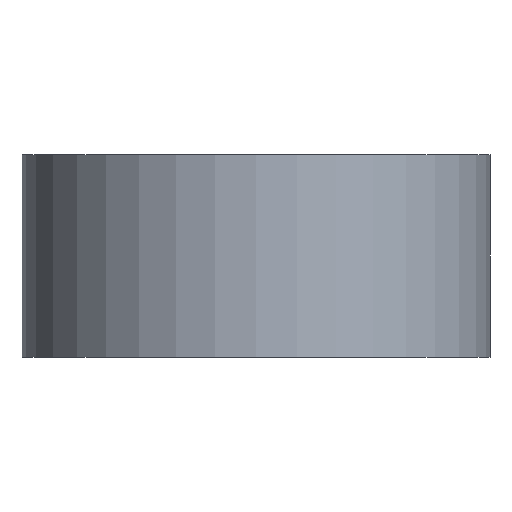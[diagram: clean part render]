
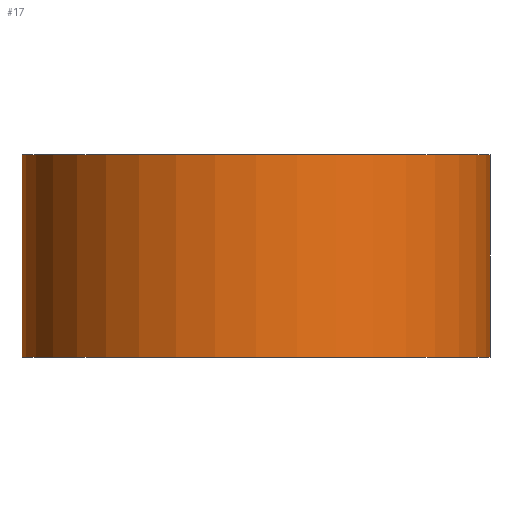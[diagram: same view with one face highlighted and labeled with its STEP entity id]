
A CAD part, front view. The second image highlights one B-rep face of the part: STEP entity #17.
In plain terms, the highlighted cylindrical face has radius 1.1 mm (diameter 2.2 mm), a full revolution.
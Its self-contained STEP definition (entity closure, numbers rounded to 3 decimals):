
#17 = ADVANCED_FACE('',(#18),#31,.T.);
#18 = FACE_BOUND('',#19,.T.);
#19 = EDGE_LOOP('',(#20,#54,#77,#104));
#20 = ORIENTED_EDGE('',*,*,#21,.F.);
#21 = EDGE_CURVE('',#22,#22,#24,.T.);
#22 = VERTEX_POINT('',#23);
#23 = CARTESIAN_POINT('',(1.1,-14.,-2.251));
#24 = SURFACE_CURVE('',#25,(#30,#42),.PCURVE_S1.);
#25 = CIRCLE('',#26,1.1);
#26 = AXIS2_PLACEMENT_3D('',#27,#28,#29);
#27 = CARTESIAN_POINT('',(0.,-14.,-2.251));
#28 = DIRECTION('',(0.,0.,1.));
#29 = DIRECTION('',(1.,0.,-0.));
#30 = PCURVE('',#31,#36);
#31 = CYLINDRICAL_SURFACE('',#32,1.1);
#32 = AXIS2_PLACEMENT_3D('',#33,#34,#35);
#33 = CARTESIAN_POINT('',(0.,-14.,-3.201));
#34 = DIRECTION('',(0.,0.,1.));
#35 = DIRECTION('',(1.,0.,-0.));
#36 = DEFINITIONAL_REPRESENTATION('',(#37),#41);
#37 = LINE('',#38,#39);
#38 = CARTESIAN_POINT('',(0.,0.95));
#39 = VECTOR('',#40,1.);
#40 = DIRECTION('',(1.,0.));
#41 = ( GEOMETRIC_REPRESENTATION_CONTEXT(2) 
PARAMETRIC_REPRESENTATION_CONTEXT() REPRESENTATION_CONTEXT('2D SPACE',''
  ) );
#42 = PCURVE('',#43,#48);
#43 = PLANE('',#44);
#44 = AXIS2_PLACEMENT_3D('',#45,#46,#47);
#45 = CARTESIAN_POINT('',(0.,-14.,-2.251));
#46 = DIRECTION('',(0.,0.,1.));
#47 = DIRECTION('',(1.,0.,-0.));
#48 = DEFINITIONAL_REPRESENTATION('',(#49),#53);
#49 = CIRCLE('',#50,1.1);
#50 = AXIS2_PLACEMENT_2D('',#51,#52);
#51 = CARTESIAN_POINT('',(0.,0.));
#52 = DIRECTION('',(1.,0.));
#53 = ( GEOMETRIC_REPRESENTATION_CONTEXT(2) 
PARAMETRIC_REPRESENTATION_CONTEXT() REPRESENTATION_CONTEXT('2D SPACE',''
  ) );
#54 = ORIENTED_EDGE('',*,*,#55,.F.);
#55 = EDGE_CURVE('',#56,#22,#58,.T.);
#56 = VERTEX_POINT('',#57);
#57 = CARTESIAN_POINT('',(1.1,-14.,-3.201));
#58 = SEAM_CURVE('',#59,(#63,#70),.PCURVE_S1.);
#59 = LINE('',#60,#61);
#60 = CARTESIAN_POINT('',(1.1,-14.,-3.201));
#61 = VECTOR('',#62,1.);
#62 = DIRECTION('',(0.,0.,1.));
#63 = PCURVE('',#31,#64);
#64 = DEFINITIONAL_REPRESENTATION('',(#65),#69);
#65 = LINE('',#66,#67);
#66 = CARTESIAN_POINT('',(0.,-0.));
#67 = VECTOR('',#68,1.);
#68 = DIRECTION('',(0.,1.));
#69 = ( GEOMETRIC_REPRESENTATION_CONTEXT(2) 
PARAMETRIC_REPRESENTATION_CONTEXT() REPRESENTATION_CONTEXT('2D SPACE',''
  ) );
#70 = PCURVE('',#31,#71);
#71 = DEFINITIONAL_REPRESENTATION('',(#72),#76);
#72 = LINE('',#73,#74);
#73 = CARTESIAN_POINT('',(6.283,-0.));
#74 = VECTOR('',#75,1.);
#75 = DIRECTION('',(0.,1.));
#76 = ( GEOMETRIC_REPRESENTATION_CONTEXT(2) 
PARAMETRIC_REPRESENTATION_CONTEXT() REPRESENTATION_CONTEXT('2D SPACE',''
  ) );
#77 = ORIENTED_EDGE('',*,*,#78,.T.);
#78 = EDGE_CURVE('',#56,#56,#79,.T.);
#79 = SURFACE_CURVE('',#80,(#85,#92),.PCURVE_S1.);
#80 = CIRCLE('',#81,1.1);
#81 = AXIS2_PLACEMENT_3D('',#82,#83,#84);
#82 = CARTESIAN_POINT('',(0.,-14.,-3.201));
#83 = DIRECTION('',(0.,0.,1.));
#84 = DIRECTION('',(1.,0.,-0.));
#85 = PCURVE('',#31,#86);
#86 = DEFINITIONAL_REPRESENTATION('',(#87),#91);
#87 = LINE('',#88,#89);
#88 = CARTESIAN_POINT('',(0.,0.));
#89 = VECTOR('',#90,1.);
#90 = DIRECTION('',(1.,0.));
#91 = ( GEOMETRIC_REPRESENTATION_CONTEXT(2) 
PARAMETRIC_REPRESENTATION_CONTEXT() REPRESENTATION_CONTEXT('2D SPACE',''
  ) );
#92 = PCURVE('',#93,#98);
#93 = PLANE('',#94);
#94 = AXIS2_PLACEMENT_3D('',#95,#96,#97);
#95 = CARTESIAN_POINT('',(0.,-14.,-3.201));
#96 = DIRECTION('',(0.,0.,1.));
#97 = DIRECTION('',(1.,0.,-0.));
#98 = DEFINITIONAL_REPRESENTATION('',(#99),#103);
#99 = CIRCLE('',#100,1.1);
#100 = AXIS2_PLACEMENT_2D('',#101,#102);
#101 = CARTESIAN_POINT('',(0.,0.));
#102 = DIRECTION('',(1.,0.));
#103 = ( GEOMETRIC_REPRESENTATION_CONTEXT(2) 
PARAMETRIC_REPRESENTATION_CONTEXT() REPRESENTATION_CONTEXT('2D SPACE',''
  ) );
#104 = ORIENTED_EDGE('',*,*,#55,.T.);
